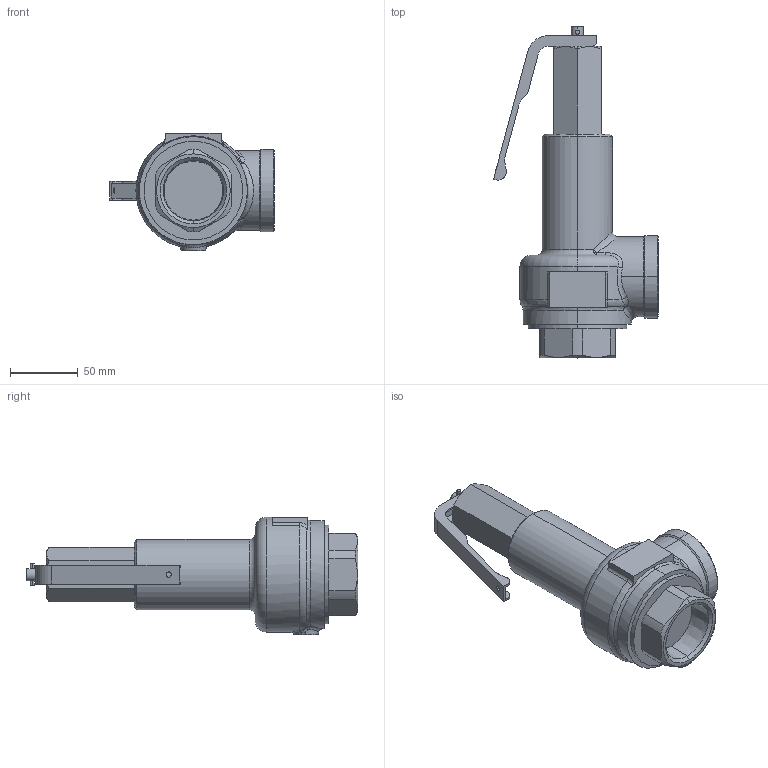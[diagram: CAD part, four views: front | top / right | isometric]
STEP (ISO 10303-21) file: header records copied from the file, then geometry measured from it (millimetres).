
FILE_DESCRIPTION (( 'STEP AP203' ), '1' );
FILE_NAME ('AL-150TML 40A.STEP', '2026-01-08T02:27:12', ( '' ), ( '' ), 'SwSTEP 2.0', 'SolidWorks 2024', '' );
FILE_SCHEMA (( 'CONFIG_CONTROL_DESIGN' ));
Length unit declared in the file: millimetre
Products named in the file (3): AL-150TML 40A; AL-150TML 40A(Non-Lever); AL-15 Lever 40-50A
Assembly tree (2 placements, depth 2):
  AL-150TML 40A
    AL-150TML 40A(Non-Lever)
    AL-15 Lever 40-50A
Bounding box: 122.03 x 245.5 x 87 mm (x, y, z)
Volume: 629026.8 mm3; surface area: 67976.1 mm2
Topology: 2 solids, 2 shells, 168 faces, 419 edges, 260 vertices
Faces by surface type: plane 54, cylinder 53, cone 25, bspline 22, torus 12, sphere 2
Entity records: 7028 total; most frequent: CARTESIAN_POINT 2815, ORIENTED_EDGE 834, DIRECTION 819, EDGE_CURVE 417, AXIS2_PLACEMENT_3D 322, VERTEX_POINT 260, EDGE_LOOP 179, VECTOR 175
